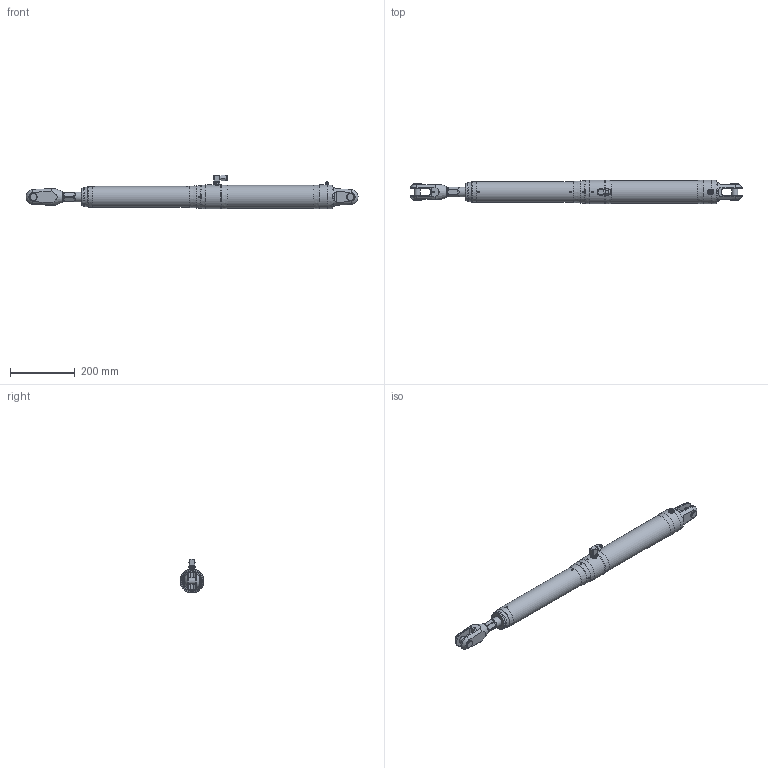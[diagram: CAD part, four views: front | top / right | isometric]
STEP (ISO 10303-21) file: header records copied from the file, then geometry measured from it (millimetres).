
FILE_DESCRIPTION(/* description */ (''),/* implementation_level */ '2;1');
FILE_NAME(/* name */ 'Q:\AA BRAND HYDRAULICS\HYDRAULICS FAMILY DIRECTORY\HYDRAULICS\CYLINDERS\MECHANICAL LOCK RAMS\ALUMINIUM - STAINLESS SINGLE ACTING (-0012 To -0150)\MSA-0022-S0275-NP-71\MSA-0022-S0275-NP-71 (Closed).stp',/* time_stamp */ '2018-04-25T15:37:36+01:00',/* author */ ('Lorena'),/* organization */ (''),/* preprocessor_version */ 'ST-DEVELOPER v17',/* originating_system */ 'Autodesk Inventor 2018',/* authorisation */ '');
FILE_SCHEMA (('AUTOMOTIVE_DESIGN { 1 0 10303 214 3 1 1 }'));
Length unit declared in the file: millimetre
Products named in the file (1): MSA-0022-S0275-NP-71 (Closed)
Bounding box: 1028.98 x 74.2 x 105 mm (x, y, z)
Volume: 3213041.9 mm3; surface area: 228215.8 mm2
Topology: 2 solids, 4 shells, 491 faces, 1285 edges, 837 vertices
Faces by surface type: plane 279, cone 120, cylinder 78, torus 5, bspline 5, sphere 4
Full cylindrical faces by diameter (mm): 4 x5, 4.2 x2, 4.4 x1, 5 x4, 5.1 x1, 7 x1, 9 x1, 10 x2, 11.11 x1, 11.157 x1, 11.5 x1, 11.8 x1, 12 x3, 12.157 x1, 13 x1, 13.157 x2, 14.5 x2, 18.3 x3, 19.05 x2, 19.5 x1, 22 x1, 23.812 x2, 30 x2, 31 x1, 34 x1, 59 x1, 65 x1, 71.2 x1, 74.2 x4
Entity records: 16673 total; most frequent: CARTESIAN_POINT 4216, ORIENTED_EDGE 2550, DIRECTION 2484, EDGE_CURVE 1275, AXIS2_PLACEMENT_3D 955, VERTEX_POINT 837, LINE 574, VECTOR 574
